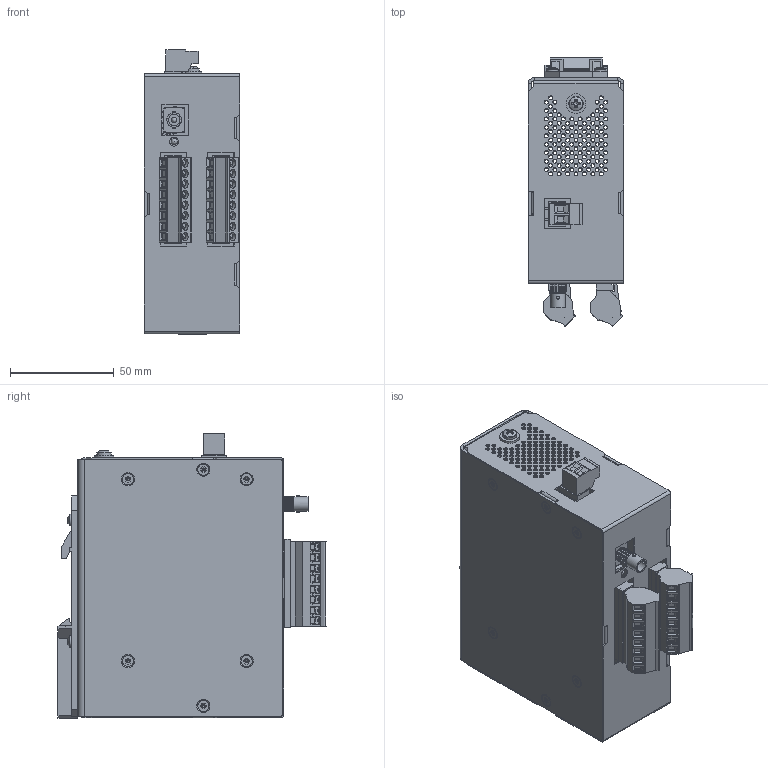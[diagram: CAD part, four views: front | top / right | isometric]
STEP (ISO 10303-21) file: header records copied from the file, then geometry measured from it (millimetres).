
FILE_DESCRIPTION(/* description */ ('STEP AP242 Edition 2','CAx-IF Rec.Pracs.---Representation and Presentation of Product Manufacturing Information (PMI)---4.0---2014-10-13','CAx-IF Rec.Pracs.---3D Tessellated Geometry---0.4---2014-09-14','2;1','CAx-IF Rec.Pracs.---User Defined Attributes---1.5---2016-08-15'),/* implementation_level */ '2;1');
FILE_NAME(/* name */ '6982540ededb8686fd1a3602',/* time_stamp */ '2026-02-03T20:01:20Z',/* author */ (''),/* organization */ (''),/* preprocessor_version */ 'ST-DEVELOPER v20',/* originating_system */ 'ONSHAPE BY PTC INC, 1.210',/* authorisation */ ' ');
FILE_SCHEMA (('AP242_MANAGED_MODEL_BASED_3D_ENGINEERING_MIM_LF { 1 0 10303 442 3 1 4 }'));
Products named in the file (36): 8 Channel Contact Closure, Transmitter; 30mm DIN Clip <1>; 30mm DIN Clip; C-796638-2; smstb_2.5-8-st-5.08; Flat countersunk head (100) machine screw #4-40 x 0.25; C-796634-2; Pan head machine screw #4-40 x 0.25; Pan head machine screw #6-32 x 0.25; Type A flat washer #6 Narrow; C-796638-8; H-131 <1>; PEM CLS-440-0  ; H-131; PEM CLS-632-0  ; ST <1>; HFBR-1414Z_HFBR-1414Z; LED <1>; 551-0207-010F; H-013 <1>; PEM SMPS-440; Rear Housing
Assembly tree (61 placements, depth 3):
  8 Channel Contact Closure, Transmitter
    30mm DIN Clip <1>
      30mm DIN Clip
    C-796638-2
    smstb_2.5-8-st-5.08  x2
    Flat countersunk head (100) machine screw #4-40 x 0.25  x12
    C-796634-2
    Pan head machine screw #4-40 x 0.25  x4
    Pan head machine screw #6-32 x 0.25
    Type A flat washer #6 Narrow
    C-796638-8  x2
    H-131 <1>
      PEM CLS-440-0    x8
      H-131
      PEM CLS-632-0  
    ST <1>
      HFBR-1414Z_HFBR-1414Z
      HFBR-1414Z_HFBR-1414Z
      HFBR-1414Z_HFBR-1414Z
      HFBR-1414Z_HFBR-1414Z
      HFBR-1414Z_HFBR-1414Z
      HFBR-1414Z_HFBR-1414Z
      HFBR-1414Z_HFBR-1414Z
      HFBR-1414Z_HFBR-1414Z
      HFBR-1414Z_HFBR-1414Z
      HFBR-1414Z_HFBR-1414Z
    LED <1>
      551-0207-010F
      551-0207-010F
      551-0207-010F
      551-0207-010F
      551-0207-010F
      551-0207-010F
    H-013 <1>
      PEM SMPS-440  x4
      Rear Housing
Bounding box: 46.23 x 129.17 x 137.02 mm (x, y, z)
Volume: 95097.3 mm3; surface area: 119899.6 mm2
Topology: 56 solids, 61 shells, 4436 faces, 12055 edges, 7945 vertices
Faces by surface type: plane 3158, cylinder 773, cone 186, bspline 153, torus 135, sphere 31
Full cylindrical faces by diameter (mm): 0.46 x4, 0.508 x2, 0.6 x2, 1.4 x16, 1.5 x2, 1.905 x263, 2.156 x12, 2.5 x1, 2.642 x1, 2.8 x14, 2.845 x16, 2.89 x1, 3.251 x12, 3.3 x10, 3.505 x1, 3.783 x16, 3.962 x1, 4 x19, 4.191 x12, 4.216 x12, 4.318 x1, 4.75 x1, 4.763 x1, 5.563 x4, 5.588 x4, 5.6 x1, 6.35 x8, 6.858 x1, 7 x1, 7.112 x1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
Entity records: 68073 total; most frequent: CARTESIAN_POINT 11700, DIRECTION 10508, ORIENTED_EDGE 10080, EDGE_CURVE 5040, AXIS2_PLACEMENT_3D 3591, VERTEX_POINT 3553, LINE 3326, VECTOR 3326
